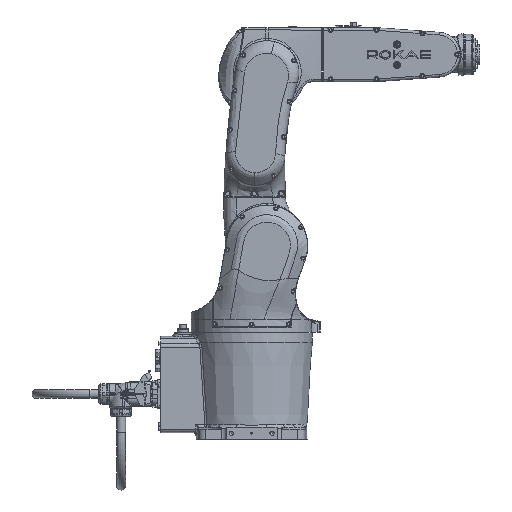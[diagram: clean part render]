
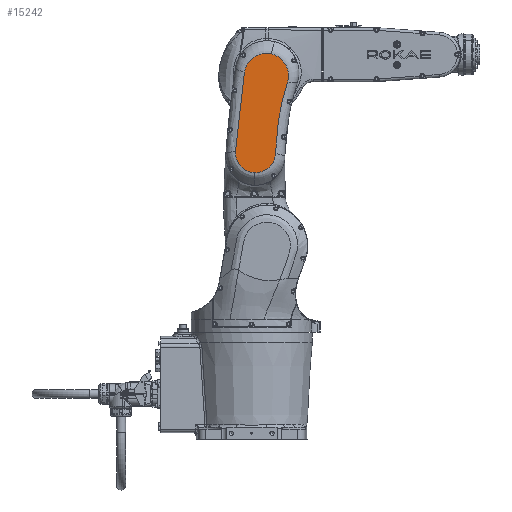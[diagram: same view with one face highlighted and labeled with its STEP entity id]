
A CAD part, front view. The second image highlights one B-rep face of the part: STEP entity #15242.
In plain terms, the highlighted planar face has unit normal (0, -1, 0).
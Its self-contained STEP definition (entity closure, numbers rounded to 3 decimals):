
#12749=PLANE('',#61778);
#15242=ADVANCED_FACE('',(#18946),#12749,.T.);
#18946=FACE_OUTER_BOUND('',#22649,.T.);
#22649=EDGE_LOOP('',(#33842,#33843,#33844,#33845,#33846,#33847));
#33842=ORIENTED_EDGE('',*,*,#51671,.T.);
#33843=ORIENTED_EDGE('',*,*,#51656,.T.);
#33844=ORIENTED_EDGE('',*,*,#51712,.T.);
#33845=ORIENTED_EDGE('',*,*,#51701,.T.);
#33846=ORIENTED_EDGE('',*,*,#51719,.T.);
#33847=ORIENTED_EDGE('',*,*,#51682,.T.);
#44655=VERTEX_POINT('',#131183);
#44656=VERTEX_POINT('',#131194);
#44670=VERTEX_POINT('',#135034);
#44679=VERTEX_POINT('',#135169);
#44698=VERTEX_POINT('',#135749);
#44699=VERTEX_POINT('',#135750);
#51656=EDGE_CURVE('',#44656,#44655,#57807,.T.);
#51671=EDGE_CURVE('',#44670,#44656,#57822,.T.);
#51682=EDGE_CURVE('',#44679,#44670,#57831,.T.);
#51701=EDGE_CURVE('',#44698,#44699,#57846,.T.);
#51712=EDGE_CURVE('',#44655,#44698,#57854,.T.);
#51719=EDGE_CURVE('',#44699,#44679,#57859,.T.);
#57807=B_SPLINE_CURVE_WITH_KNOTS('',3,(#131184,#131185,#131186,#131187,
#131188,#131189,#131190,#131191,#131192,#131193),.UNSPECIFIED.,.F.,.F.,
(4,2,2,2,4),(0.,0.25,0.5,0.75,1.),.UNSPECIFIED.);
#57822=B_SPLINE_CURVE_WITH_KNOTS('',3,(#135030,#135031,#135032,#135033),
 .UNSPECIFIED.,.F.,.F.,(4,4),(0.,1.),.UNSPECIFIED.);
#57831=B_SPLINE_CURVE_WITH_KNOTS('',3,(#135180,#135181,#135182,#135183,
#135184,#135185,#135186,#135187,#135188,#135189),.UNSPECIFIED.,.F.,.F.,
(4,2,2,2,4),(0.,0.25,0.5,0.75,1.),.UNSPECIFIED.);
#57846=B_SPLINE_CURVE_WITH_KNOTS('',3,(#135745,#135746,#135747,#135748),
 .UNSPECIFIED.,.F.,.F.,(4,4),(0.,1.),.UNSPECIFIED.);
#57854=B_SPLINE_CURVE_WITH_KNOTS('',3,(#135917,#135918,#135919,#135920,
#135921,#135922,#135923,#135924,#135925,#135926),.UNSPECIFIED.,.F.,.F.,
(4,2,2,2,4),(0.,0.25,0.5,0.75,1.),.UNSPECIFIED.);
#57859=B_SPLINE_CURVE_WITH_KNOTS('',3,(#136406,#136407,#136408,#136409,
#136410,#136411,#136412,#136413,#136414,#136415),.UNSPECIFIED.,.F.,.F.,
(4,2,2,2,4),(0.,0.25,0.5,0.75,1.),.UNSPECIFIED.);
#61778=AXIS2_PLACEMENT_3D('',#136853,#71125,#71126);
#71125=DIRECTION('',(0.,-1.,0.));
#71126=DIRECTION('',(0.,0.,1.));
#131183=CARTESIAN_POINT('',(-24.611,-115.,143.411));
#131184=CARTESIAN_POINT('',(-61.751,-115.,185.411));
#131185=CARTESIAN_POINT('',(-62.124,-115.,180.215));
#131186=CARTESIAN_POINT('',(-61.452,-115.,174.959));
#131187=CARTESIAN_POINT('',(-58.115,-115.,165.093));
#131188=CARTESIAN_POINT('',(-55.458,-115.,160.506));
#131189=CARTESIAN_POINT('',(-48.559,-115.,152.705));
#131190=CARTESIAN_POINT('',(-44.332,-115.,149.506));
#131191=CARTESIAN_POINT('',(-34.948,-115.,144.987));
#131192=CARTESIAN_POINT('',(-29.812,-115.,143.676));
#131193=CARTESIAN_POINT('',(-24.611,-115.,143.411));
#131194=CARTESIAN_POINT('',(-61.751,-115.,185.411));
#135030=CARTESIAN_POINT('',(-44.433,-115.,340.528));
#135031=CARTESIAN_POINT('',(-52.244,-115.,289.05));
#135032=CARTESIAN_POINT('',(-58.016,-115.,237.344));
#135033=CARTESIAN_POINT('',(-61.751,-115.,185.411));
#135034=CARTESIAN_POINT('',(-44.433,-115.,340.528));
#135169=CARTESIAN_POINT('',(8.392,-115.,376.398));
#135180=CARTESIAN_POINT('',(8.392,-115.,376.398));
#135181=CARTESIAN_POINT('',(2.566,-115.,377.745));
#135182=CARTESIAN_POINT('',(-3.523,-115.,377.874));
#135183=CARTESIAN_POINT('',(-15.276,-115.,375.679));
#135184=CARTESIAN_POINT('',(-20.91,-115.,373.359));
#135185=CARTESIAN_POINT('',(-30.801,-115.,366.643));
#135186=CARTESIAN_POINT('',(-35.035,-115.,362.262));
#135187=CARTESIAN_POINT('',(-41.41,-115.,352.148));
#135188=CARTESIAN_POINT('',(-43.536,-115.,346.439));
#135189=CARTESIAN_POINT('',(-44.433,-115.,340.528));
#135745=CARTESIAN_POINT('',(16.603,-115.,181.42));
#135746=CARTESIAN_POINT('',(18.023,-115.,228.742));
#135747=CARTESIAN_POINT('',(25.952,-115.,275.808));
#135748=CARTESIAN_POINT('',(40.114,-115.,320.982));
#135749=CARTESIAN_POINT('',(16.603,-115.,181.42));
#135750=CARTESIAN_POINT('',(40.114,-115.,320.982));
#135917=CARTESIAN_POINT('',(-24.611,-115.,143.411));
#135918=CARTESIAN_POINT('',(-19.409,-115.,143.146));
#135919=CARTESIAN_POINT('',(-14.168,-115.,143.928));
#135920=CARTESIAN_POINT('',(-4.374,-115.,147.471));
#135921=CARTESIAN_POINT('',(0.157,-115.,150.223));
#135922=CARTESIAN_POINT('',(7.812,-115.,157.284));
#135923=CARTESIAN_POINT('',(10.922,-115.,161.577));
#135924=CARTESIAN_POINT('',(15.244,-115.,171.053));
#135925=CARTESIAN_POINT('',(16.447,-115.,176.215));
#135926=CARTESIAN_POINT('',(16.603,-115.,181.42));
#136406=CARTESIAN_POINT('',(40.114,-115.,320.982));
#136407=CARTESIAN_POINT('',(41.903,-115.,326.688));
#136408=CARTESIAN_POINT('',(42.498,-115.,332.75));
#136409=CARTESIAN_POINT('',(41.208,-115.,344.636));
#136410=CARTESIAN_POINT('',(39.327,-115.,350.431));
#136411=CARTESIAN_POINT('',(33.387,-115.,360.807));
#136412=CARTESIAN_POINT('',(29.343,-115.,365.364));
#136413=CARTESIAN_POINT('',(19.747,-115.,372.495));
#136414=CARTESIAN_POINT('',(14.217,-115.,375.052));
#136415=CARTESIAN_POINT('',(8.392,-115.,376.398));
#136853=CARTESIAN_POINT('',(-1.409,-115.,334.));
